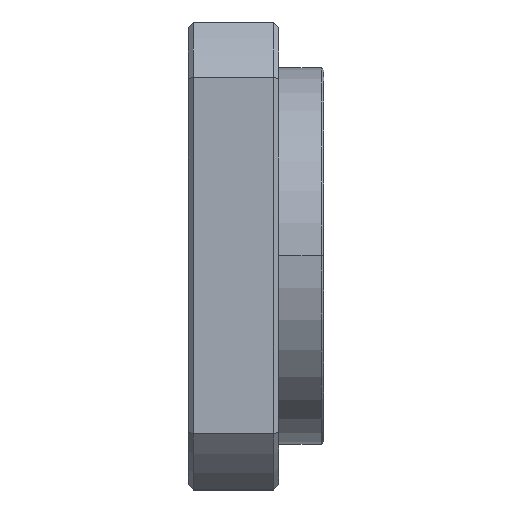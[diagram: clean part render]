
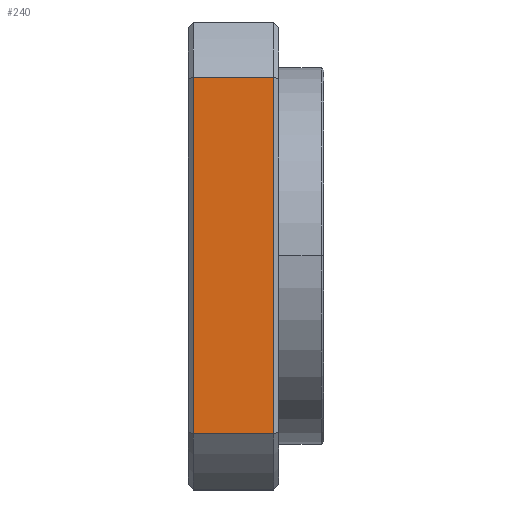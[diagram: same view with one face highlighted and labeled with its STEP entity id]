
A CAD part, top view. The second image highlights one B-rep face of the part: STEP entity #240.
In plain terms, the highlighted planar face has unit normal (0, 0, 1).
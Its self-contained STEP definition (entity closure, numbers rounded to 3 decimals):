
#114 = VECTOR ( 'NONE', #3486, 1000. ) ;
#161 = FACE_OUTER_BOUND ( 'NONE', #625, .T. ) ;
#240 = ADVANCED_FACE ( 'NONE', ( #161 ), #1049, .T. ) ;
#381 = DIRECTION ( 'NONE',  ( 0., 1., 0. ) ) ;
#415 = CARTESIAN_POINT ( 'NONE',  ( 17., 35.496, 46.5 ) ) ;
#625 = EDGE_LOOP ( 'NONE', ( #1042, #1848, #2565, #2646 ) ) ;
#685 = CARTESIAN_POINT ( 'NONE',  ( 1., -35.496, 46.5 ) ) ;
#986 = DIRECTION ( 'NONE',  ( 1., 0., 0. ) ) ;
#1028 = DIRECTION ( 'NONE',  ( 0., 0., 1. ) ) ;
#1042 = ORIENTED_EDGE ( 'NONE', *, *, #2683, .T. ) ;
#1049 = PLANE ( 'NONE',  #1841 ) ;
#1071 = LINE ( 'NONE', #2213, #114 ) ;
#1077 = VECTOR ( 'NONE', #1755, 1000. ) ;
#1098 = EDGE_CURVE ( 'NONE', #3169, #3407, #2598, .T. ) ;
#1145 = CARTESIAN_POINT ( 'NONE',  ( 50., -46.5, 46.5 ) ) ;
#1270 = VECTOR ( 'NONE', #2550, 1000. ) ;
#1365 = VECTOR ( 'NONE', #381, 1000. ) ;
#1695 = CARTESIAN_POINT ( 'NONE',  ( 17., 35.496, 46.5 ) ) ;
#1755 = DIRECTION ( 'NONE',  ( 0., -1., 0. ) ) ;
#1802 = CARTESIAN_POINT ( 'NONE',  ( 1., -35.496, 46.5 ) ) ;
#1841 = AXIS2_PLACEMENT_3D ( 'NONE', #1145, #1028, #986 ) ;
#1848 = ORIENTED_EDGE ( 'NONE', *, *, #1098, .T. ) ;
#1908 = EDGE_CURVE ( 'NONE', #2467, #2448, #2142, .T. ) ;
#2122 = EDGE_CURVE ( 'NONE', #3407, #2467, #1071, .T. ) ;
#2142 = LINE ( 'NONE', #415, #1365 ) ;
#2197 = CARTESIAN_POINT ( 'NONE',  ( 1., 35.496, 46.5 ) ) ;
#2213 = CARTESIAN_POINT ( 'NONE',  ( -81.647, -35.496, 46.5 ) ) ;
#2448 = VERTEX_POINT ( 'NONE', #1695 ) ;
#2467 = VERTEX_POINT ( 'NONE', #3272 ) ;
#2550 = DIRECTION ( 'NONE',  ( -1., 0., 0. ) ) ;
#2565 = ORIENTED_EDGE ( 'NONE', *, *, #2122, .T. ) ;
#2598 = LINE ( 'NONE', #1802, #1077 ) ;
#2646 = ORIENTED_EDGE ( 'NONE', *, *, #1908, .T. ) ;
#2683 = EDGE_CURVE ( 'NONE', #2448, #3169, #3376, .T. ) ;
#2996 = CARTESIAN_POINT ( 'NONE',  ( -81.647, 35.496, 46.5 ) ) ;
#3169 = VERTEX_POINT ( 'NONE', #2197 ) ;
#3272 = CARTESIAN_POINT ( 'NONE',  ( 17., -35.496, 46.5 ) ) ;
#3376 = LINE ( 'NONE', #2996, #1270 ) ;
#3407 = VERTEX_POINT ( 'NONE', #685 ) ;
#3486 = DIRECTION ( 'NONE',  ( 1., 0., 0. ) ) ;
